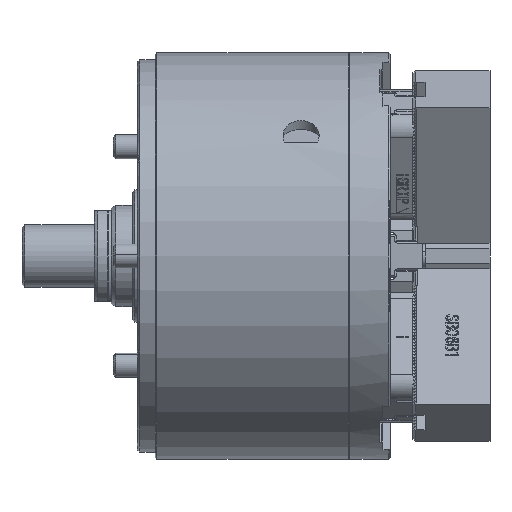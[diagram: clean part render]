
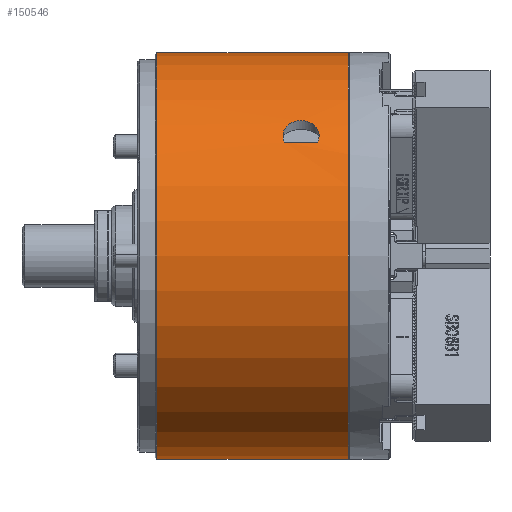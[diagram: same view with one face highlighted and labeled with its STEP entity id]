
A CAD part, front view. The second image highlights one B-rep face of the part: STEP entity #150546.
In plain terms, the highlighted cylindrical face has radius 84.5 mm (diameter 169 mm), a partial arc.
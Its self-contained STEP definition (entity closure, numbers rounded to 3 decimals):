
#3934 = EDGE_LOOP ( 'NONE', ( #84122, #46154 ) ) ;
#4041 = CARTESIAN_POINT ( 'NONE',  ( -33.402, -69.987, 47.35 ) ) ;
#4635 = CARTESIAN_POINT ( 'NONE',  ( -33.048, -65.701, 53.139 ) ) ;
#5251 = CARTESIAN_POINT ( 'NONE',  ( -27.164, -63.084, 56.22 ) ) ;
#5850 = CARTESIAN_POINT ( 'NONE',  ( -20.467, -65.162, 53.798 ) ) ;
#6447 = CARTESIAN_POINT ( 'NONE',  ( -19.217, -69.283, 48.375 ) ) ;
#13467 = DIRECTION ( 'NONE',  ( -1., 0., 0. ) ) ;
#18675 = CARTESIAN_POINT ( 'NONE',  ( -32.55, -65.178, 53.778 ) ) ;
#19284 = CARTESIAN_POINT ( 'NONE',  ( -25.875, -63.082, 56.222 ) ) ;
#19873 = CARTESIAN_POINT ( 'NONE',  ( -19.965, -65.686, 53.157 ) ) ;
#20492 = CARTESIAN_POINT ( 'NONE',  ( -19.482, -69.817, 47.602 ) ) ;
#24719 = CARTESIAN_POINT ( 'NONE',  ( -6.9, 0., 84.5 ) ) ;
#24727 = CARTESIAN_POINT ( 'NONE',  ( -33.402, -69.987, 47.35 ) ) ;
#25762 = CARTESIAN_POINT ( 'NONE',  ( -86.4, 0., 84.5 ) ) ;
#27534 = DIRECTION ( 'NONE',  ( 0., 0., 1. ) ) ;
#29162 = ORIENTED_EDGE ( 'NONE', *, *, #125223, .T. ) ;
#32072 = CARTESIAN_POINT ( 'NONE',  ( -33.944, -68.739, 49.146 ) ) ;
#32672 = CARTESIAN_POINT ( 'NONE',  ( -31.948, -64.686, 54.369 ) ) ;
#33266 = CARTESIAN_POINT ( 'NONE',  ( -24.909, -63.183, 56.109 ) ) ;
#33882 = CARTESIAN_POINT ( 'NONE',  ( -19.561, -66.242, 52.462 ) ) ;
#33906 = CARTESIAN_POINT ( 'NONE',  ( -70.699, -69.987, 47.35 ) ) ;
#35085 = DIRECTION ( 'NONE',  ( -1., 0., 0. ) ) ;
#38949 = VERTEX_POINT ( 'NONE', #24727 ) ;
#41493 = CARTESIAN_POINT ( 'NONE',  ( -70.699, 0., 0. ) ) ;
#42824 = FACE_OUTER_BOUND ( 'NONE', #151132, .T. ) ;
#46006 = ORIENTED_EDGE ( 'NONE', *, *, #66917, .T. ) ;
#46057 = CARTESIAN_POINT ( 'NONE',  ( -34.006, -68.169, 49.933 ) ) ;
#46154 = ORIENTED_EDGE ( 'NONE', *, *, #100582, .T. ) ;
#46670 = CARTESIAN_POINT ( 'NONE',  ( -30.772, -63.975, 55.204 ) ) ;
#47277 = CARTESIAN_POINT ( 'NONE',  ( -23.982, -63.368, 55.9 ) ) ;
#47865 = CARTESIAN_POINT ( 'NONE',  ( -19.268, -66.811, 51.736 ) ) ;
#48474 = AXIS2_PLACEMENT_3D ( 'NONE', #41493, #13467, #27534 ) ;
#50845 = LINE ( 'NONE', #97223, #120694 ) ;
#54028 = DIRECTION ( 'NONE',  ( -1., 0., 0. ) ) ;
#60055 = CARTESIAN_POINT ( 'NONE',  ( -33.94, -67.401, 50.969 ) ) ;
#60658 = CARTESIAN_POINT ( 'NONE',  ( -29.644, -63.546, 55.697 ) ) ;
#61011 = EDGE_CURVE ( 'NONE', #72558, #89287, #152755, .T. ) ;
#61241 = CARTESIAN_POINT ( 'NONE',  ( -23.096, -63.633, 55.597 ) ) ;
#61845 = CARTESIAN_POINT ( 'NONE',  ( -19.079, -67.389, 50.981 ) ) ;
#64258 = CARTESIAN_POINT ( 'NONE',  ( -86.4, 0., -84.5 ) ) ;
#65042 = DIRECTION ( 'NONE',  ( -1., 0., 0. ) ) ;
#66917 = EDGE_CURVE ( 'NONE', #148127, #77333, #50845, .T. ) ;
#67046 = VECTOR ( 'NONE', #35085, 1000. ) ;
#68400 = AXIS2_PLACEMENT_3D ( 'NONE', #148629, #65042, #162628 ) ;
#70241 = B_SPLINE_CURVE_WITH_KNOTS ( 'NONE', 3,
 ( #4041, #87472, #115560, #32072, #129595, #46057, #143637, #60055, #157601, #74038, #171672, #88096, #4635, #102162, #18675, #116154, #32672, #130203, #46670, #144235, #60658, #158224, #74623, #172286, #88721, #5251, #102751, #19284, #116785, #33266, #130807, #47277, #144841, #61241, #158814, #75249, #172860, #89317, #5850, #103361, #19873, #117385, #33882, #131403, #47865, #145456, #61845, #159410, #75854, #173488, #89900, #6447, #103976, #20492, #117953 ),
 .UNSPECIFIED., .F., .F.,
 ( 4, 2, 2, 2, 2, 2, 2, 2, 2, 2, 2, 2, 2, 1, 2, 2, 2, 2, 2, 2, 2, 2, 2, 2, 2, 2, 2, 4 ),
 ( 0., 0.002, 0.003, 0.004, 0.006, 0.007, 0.008, 0.009, 0.01, 0.012, 0.013, 0.014, 0.014, 0.015, 0.016, 0.017, 0.018, 0.019, 0.021, 0.022, 0.023, 0.024, 0.025, 0.026, 0.027, 0.029, 0.03, 0.031 ),
 .UNSPECIFIED. ) ;
#72558 = VERTEX_POINT ( 'NONE', #102526 ) ;
#74038 = CARTESIAN_POINT ( 'NONE',  ( -33.555, -66.442, 52.209 ) ) ;
#74623 = CARTESIAN_POINT ( 'NONE',  ( -28.75, -63.305, 55.971 ) ) ;
#75249 = CARTESIAN_POINT ( 'NONE',  ( -21.753, -64.223, 54.918 ) ) ;
#75493 = FACE_BOUND ( 'NONE', #3934, .T. ) ;
#75854 = CARTESIAN_POINT ( 'NONE',  ( -18.977, -68.165, 49.942 ) ) ;
#76953 = VERTEX_POINT ( 'NONE', #162462 ) ;
#77333 = VERTEX_POINT ( 'NONE', #25762 ) ;
#78413 = EDGE_CURVE ( 'NONE', #89287, #77333, #150898, .T. ) ;
#81025 = DIRECTION ( 'NONE',  ( -1., 0., 0. ) ) ;
#84122 = ORIENTED_EDGE ( 'NONE', *, *, #89223, .T. ) ;
#87472 = CARTESIAN_POINT ( 'NONE',  ( -33.635, -69.646, 47.855 ) ) ;
#88096 = CARTESIAN_POINT ( 'NONE',  ( -33.191, -65.881, 52.915 ) ) ;
#88721 = CARTESIAN_POINT ( 'NONE',  ( -27.808, -63.144, 56.153 ) ) ;
#89223 = EDGE_CURVE ( 'NONE', #76953, #38949, #104227, .T. ) ;
#89287 = VERTEX_POINT ( 'NONE', #64258 ) ;
#89317 = CARTESIAN_POINT ( 'NONE',  ( -20.857, -64.833, 54.194 ) ) ;
#89900 = CARTESIAN_POINT ( 'NONE',  ( -19.15, -69.099, 48.638 ) ) ;
#97223 = CARTESIAN_POINT ( 'NONE',  ( -70.699, 0., 84.5 ) ) ;
#100582 = EDGE_CURVE ( 'NONE', #38949, #76953, #70241, .T. ) ;
#102162 = CARTESIAN_POINT ( 'NONE',  ( -32.727, -65.349, 53.57 ) ) ;
#102526 = CARTESIAN_POINT ( 'NONE',  ( -6.9, 0., -84.5 ) ) ;
#102751 = CARTESIAN_POINT ( 'NONE',  ( -26.52, -63.054, 56.254 ) ) ;
#103361 = CARTESIAN_POINT ( 'NONE',  ( -20.289, -65.333, 53.59 ) ) ;
#103976 = CARTESIAN_POINT ( 'NONE',  ( -19.382, -69.642, 47.858 ) ) ;
#104227 = LINE ( 'NONE', #33906, #67046 ) ;
#108250 = CYLINDRICAL_SURFACE ( 'NONE', #48474, 84.5 ) ;
#111263 = DIRECTION ( 'NONE',  ( -1., 0., 0. ) ) ;
#115122 = ORIENTED_EDGE ( 'NONE', *, *, #61011, .F. ) ;
#115560 = CARTESIAN_POINT ( 'NONE',  ( -33.798, -69.291, 48.367 ) ) ;
#116154 = CARTESIAN_POINT ( 'NONE',  ( -32.16, -64.847, 54.178 ) ) ;
#116785 = CARTESIAN_POINT ( 'NONE',  ( -25.23, -63.139, 56.158 ) ) ;
#117385 = CARTESIAN_POINT ( 'NONE',  ( -19.818, -65.869, 52.93 ) ) ;
#117953 = CARTESIAN_POINT ( 'NONE',  ( -19.598, -69.987, 47.35 ) ) ;
#120031 = VECTOR ( 'NONE', #54028, 1000. ) ;
#120694 = VECTOR ( 'NONE', #111263, 1000. ) ;
#125223 = EDGE_CURVE ( 'NONE', #72558, #148127, #168990, .T. ) ;
#129595 = CARTESIAN_POINT ( 'NONE',  ( -33.976, -68.552, 49.407 ) ) ;
#130203 = CARTESIAN_POINT ( 'NONE',  ( -31.274, -64.238, 54.9 ) ) ;
#130807 = CARTESIAN_POINT ( 'NONE',  ( -24.287, -63.297, 55.98 ) ) ;
#131403 = CARTESIAN_POINT ( 'NONE',  ( -19.452, -66.431, 52.224 ) ) ;
#137590 = CARTESIAN_POINT ( 'NONE',  ( -70.699, 0., -84.5 ) ) ;
#139956 = AXIS2_PLACEMENT_3D ( 'NONE', #164654, #81025, #178672 ) ;
#143637 = CARTESIAN_POINT ( 'NONE',  ( -34.002, -67.977, 50.195 ) ) ;
#144235 = CARTESIAN_POINT ( 'NONE',  ( -29.934, -63.644, 55.585 ) ) ;
#144841 = CARTESIAN_POINT ( 'NONE',  ( -23.388, -63.535, 55.709 ) ) ;
#145456 = CARTESIAN_POINT ( 'NONE',  ( -19.193, -67.003, 51.488 ) ) ;
#148127 = VERTEX_POINT ( 'NONE', #24719 ) ;
#148629 = CARTESIAN_POINT ( 'NONE',  ( -6.9, 0., 0. ) ) ;
#150546 = ADVANCED_FACE ( 'NONE', ( #42824, #75493 ), #108250, .T. ) ;
#150898 = CIRCLE ( 'NONE', #139956, 84.5 ) ;
#151132 = EDGE_LOOP ( 'NONE', ( #115122, #29162, #46006, #173144 ) ) ;
#152755 = LINE ( 'NONE', #137590, #120031 ) ;
#157601 = CARTESIAN_POINT ( 'NONE',  ( -33.83, -67.017, 51.472 ) ) ;
#158224 = CARTESIAN_POINT ( 'NONE',  ( -29.053, -63.376, 55.89 ) ) ;
#158814 = CARTESIAN_POINT ( 'NONE',  ( -22.258, -63.961, 55.221 ) ) ;
#159410 = CARTESIAN_POINT ( 'NONE',  ( -19.04, -67.585, 50.721 ) ) ;
#162462 = CARTESIAN_POINT ( 'NONE',  ( -19.598, -69.987, 47.35 ) ) ;
#162628 = DIRECTION ( 'NONE',  ( 0., 0., 1. ) ) ;
#164654 = CARTESIAN_POINT ( 'NONE',  ( -86.4, 0., 0. ) ) ;
#168990 = CIRCLE ( 'NONE', #68400, 84.5 ) ;
#171672 = CARTESIAN_POINT ( 'NONE',  ( -33.444, -66.251, 52.451 ) ) ;
#172286 = CARTESIAN_POINT ( 'NONE',  ( -28.128, -63.189, 56.102 ) ) ;
#172860 = CARTESIAN_POINT ( 'NONE',  ( -21.07, -64.673, 54.384 ) ) ;
#173144 = ORIENTED_EDGE ( 'NONE', *, *, #78413, .F. ) ;
#173488 = CARTESIAN_POINT ( 'NONE',  ( -19.005, -68.543, 49.422 ) ) ;
#178672 = DIRECTION ( 'NONE',  ( 0., 0., 1. ) ) ;
